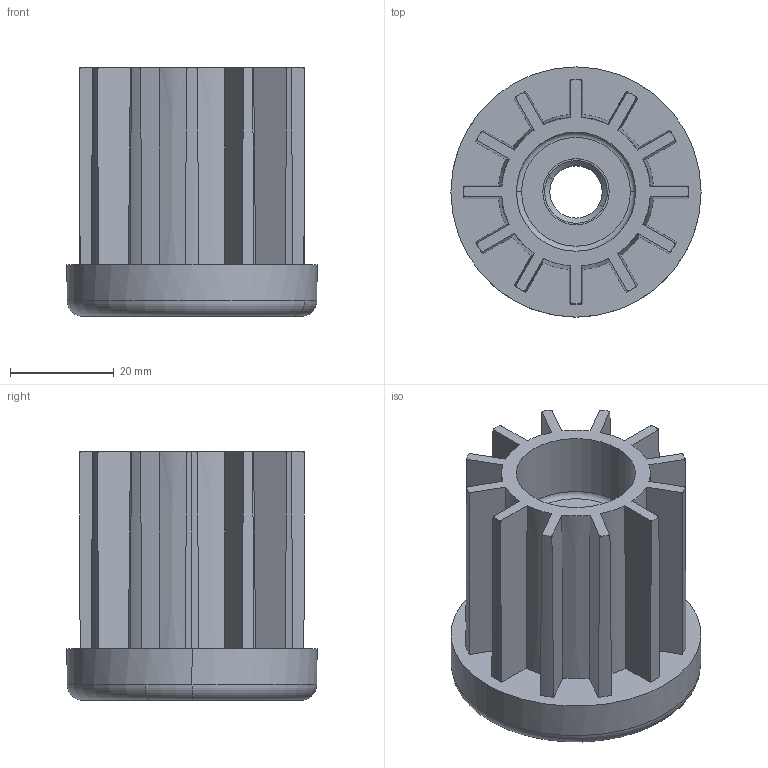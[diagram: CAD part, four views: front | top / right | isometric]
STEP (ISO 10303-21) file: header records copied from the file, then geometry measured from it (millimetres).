
FILE_DESCRIPTION(('CATIA V5 STEP Exchange'),'2;1');
FILE_NAME('C:\Users\dentellad\Desktop\P41559_01.stp','2017-03-31T14:46:28+00:00',('none'),('none'),'Version 5-6 Release 2012','CATIA V5 STEP AP203','none');
FILE_SCHEMA(('CONFIG_CONTROL_DESIGN'));
Length unit declared in the file: millimetre
Products named in the file (1): Product1
Assembly tree (2 placements, depth 2):
  Product1
    #58
    #19279
Bounding box: 48.3 x 48.3 x 48 mm (x, y, z)
Volume: 42225.9 mm3; surface area: 19174.9 mm2
Topology: 2 solids, 2 shells, 558 faces, 1624 edges, 1082 vertices
Faces by surface type: plane 474, cylinder 30, cone 24, bspline 24, torus 6
Entity records: 19729 total; most frequent: CARTESIAN_POINT 5240, ORIENTED_EDGE 3248, DIRECTION 2552, EDGE_CURVE 1624, VECTOR 1375, LINE 1375, VERTEX_POINT 1082, AXIS2_PLACEMENT_3D 645
